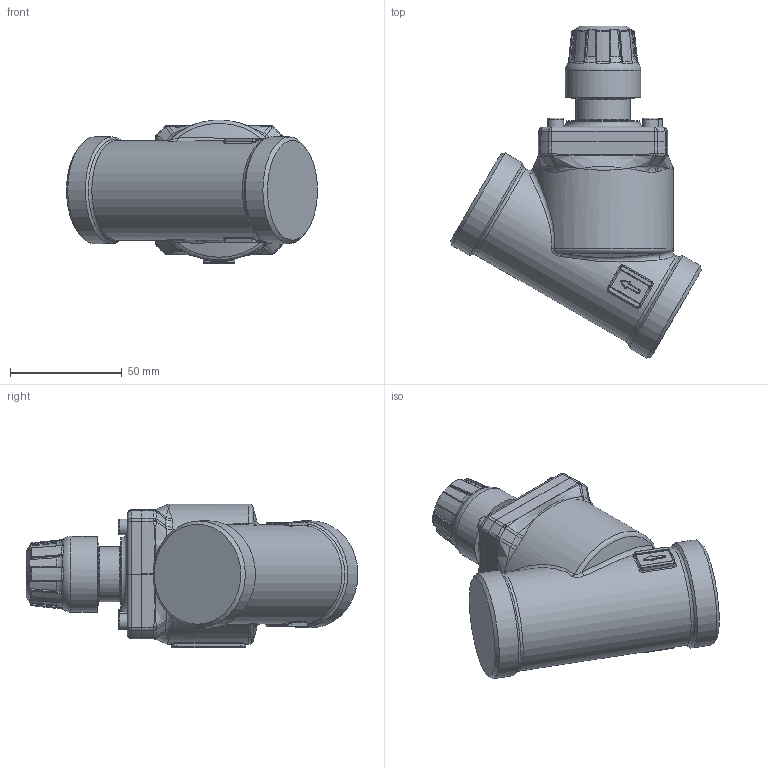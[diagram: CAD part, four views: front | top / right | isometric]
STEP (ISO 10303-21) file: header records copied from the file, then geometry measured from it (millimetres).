
FILE_DESCRIPTION(/* description */ ('Dansk beskrivelse'),/* implementation_level */ '2;1');
FILE_NAME(/* name */ 'C:\Users\jjo\Desktop\Siemens Cad modeller\53-1514.stp',/* time_stamp */ '2015-05-05T12:26:57+02:00',/* author */ ('jjo'),/* organization */ (''),/* preprocessor_version */ 'ST-DEVELOPER v15.2',/* originating_system */ 'Autodesk Inventor 2014',/* authorisation */ '0 mm^3');
FILE_SCHEMA (('AUTOMOTIVE_DESIGN { 1 0 10303 214 3 1 1 }'));
Products named in the file (1): 53-1514_Shrinkwrap_1
Bounding box: 112.47 x 148.8 x 64.47 mm (x, y, z)
Volume: 346737.4 mm3; surface area: 33926.6 mm2
Topology: 1 solids, 1 shells, 1029 faces, 2612 edges, 1585 vertices
Faces by surface type: bspline 504, plane 261, cylinder 139, torus 76, cone 39, sphere 10
Full cylindrical faces by diameter (mm): 7 x4, 24.5 x1, 34 x1, 44.6 x1, 47.8 x2
Entity records: 51768 total; most frequent: CARTESIAN_POINT 29356, ORIENTED_EDGE 5038, DIRECTION 3336, EDGE_CURVE 2519, VERTEX_POINT 1577, AXIS2_PLACEMENT_3D 1273, EDGE_LOOP 1114, STYLED_ITEM 1030
